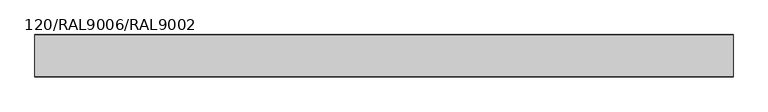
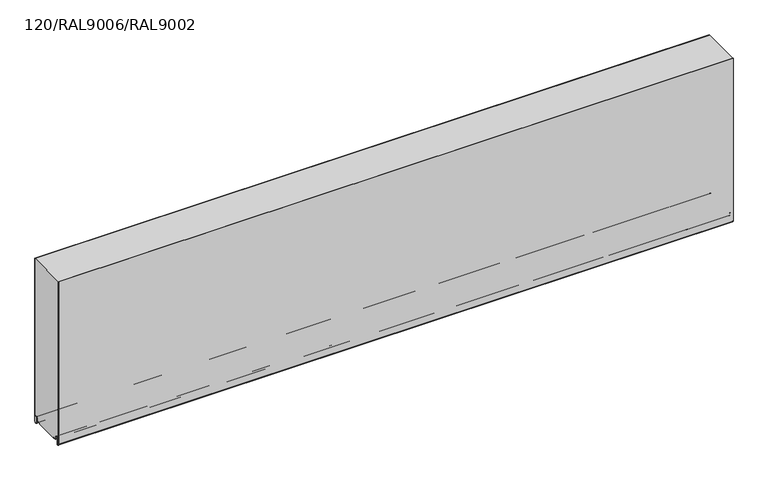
"""IFC4 building model written with IfcOpenShell, lengths in millimetres: plate geometry, TR_C_H_FTV_Panel_cut_GROOVE : 120/RAL9006/RAL9002."""

from ifc_helpers import new_model, si_unit, point, frame, frame_2d, origin, place, context, project, spatial, polyline, circle_curve, trimmed, segment, composite_curve, outline, extrude, source, transform, mapped, element, save


def plate_120_ral9006_ral9002_da1a0bd5(model_context):
    return source(origin(), model_context, "Body", "SweptSolid", [
        extrude(outline(composite_curve([segment(polyline([(-0.8, 14.4000012), (-9.45, 14.4000012)]), True, "CONTINUOUS"), segment(trimmed(circle_curve(frame_2d((-9.45, 10.1500012)), 4.25), [point((-9.45, 14.4000012))], [point((-13.635433, 10.8880059))], True, "CARTESIAN"), True, "CONTINUOUS"), segment(polyline([(-13.635433, 10.8880059), (-14.7022582, 4.837739)]), True, "CONTINUOUS"), segment(trimmed(circle_curve(frame_2d((-17.6074411, 5.3500012)), 2.95), [point((-14.7022582, 4.837739))], [point((-17.6074411, 2.4000012))], False, "CARTESIAN"), True, "CONTINUOUS"), segment(polyline([(-17.6074411, 2.4000012), (-23.7, 2.4000012), (-23.7, 1.2e-06), (-96.3, 1.2e-06), (-96.3, 2.4000012), (-102.3925589, 2.4000012)]), True, "CONTINUOUS"), segment(trimmed(circle_curve(frame_2d((-102.3925589, 5.3500012)), 2.95), [point((-102.3925589, 2.4000012))], [point((-105.2977418, 4.837739))], False, "CARTESIAN"), True, "CONTINUOUS"), segment(polyline([(-105.2977418, 4.837739), (-106.364567, 10.8880059)]), True, "CONTINUOUS"), segment(trimmed(circle_curve(frame_2d((-110.55, 10.1500012)), 4.25), [point((-106.364567, 10.8880059))], [point((-110.55, 14.4000012))], True, "CARTESIAN"), True, "CONTINUOUS"), segment(polyline([(-110.55, 14.4000012), (-119.2, 14.4000012), (-119.2, 500.0), (-0.8, 500.0), (-0.8, 14.4000012)]), True, "CONTINUOUS")], self_intersect=False)), frame((-990.0, 0.0, 0.0), z_axis=(1.0, 0.0, 0.0), x_axis=(0.0, 1.0, 0.0)), (0.0, 0.0, 1.0), 1980.0),
        extrude(outline(composite_curve([segment(polyline([(-21.0, 2.4000012), (-17.6074411, 2.4000012)]), True, "CONTINUOUS"), segment(trimmed(circle_curve(frame_2d((-17.6074411, 5.3500012)), 2.95), [point((-17.6074411, 2.4000012))], [point((-14.7022582, 4.837739))], True, "CARTESIAN"), True, "CONTINUOUS"), segment(polyline([(-14.7022582, 4.837739), (-13.635433, 10.8880059)]), True, "CONTINUOUS"), segment(trimmed(circle_curve(frame_2d((-9.45, 10.1500012)), 4.25), [point((-13.635433, 10.8880059))], [point((-5.2, 10.1500012))], False, "CARTESIAN"), True, "CONTINUOUS"), segment(polyline([(-5.2, 10.1500012), (-5.2, -7.4499988)]), True, "CONTINUOUS"), segment(trimmed(circle_curve(frame_2d((-4.05, -7.4499988)), 1.15), [point((-5.2, -7.4499988))], [point((-3.2368272, -8.2631716))], True, "CARTESIAN"), True, "CONTINUOUS"), segment(polyline([(-3.2368272, -8.2631716), (-1.3711418, -6.3974862)]), True, "CONTINUOUS"), segment(trimmed(circle_curve(frame_2d((-2.75, -5.018628)), 1.95), [point((-1.3711418, -6.3974862))], [point((-0.8, -5.018628))], True, "CARTESIAN"), True, "CONTINUOUS"), segment(polyline([(-0.8, -5.018628), (-0.8, 500.0), (0.0, 500.0), (0.0, -5.018628)]), True, "CONTINUOUS"), segment(trimmed(circle_curve(frame_2d((-2.75, -5.018628)), 2.75), [point((0.0, -5.018628))], [point((-0.8054564, -6.9631716))], False, "CARTESIAN"), True, "CONTINUOUS"), segment(polyline([(-0.8054564, -6.9631716), (-2.6711418, -8.8288571)]), True, "CONTINUOUS"), segment(trimmed(circle_curve(frame_2d((-4.05, -7.4499988)), 1.95), [point((-2.6711418, -8.8288571))], [point((-6.0, -7.4499988))], False, "CARTESIAN"), True, "CONTINUOUS"), segment(polyline([(-6.0, -7.4499988), (-6.0, 10.1500012)]), True, "CONTINUOUS"), segment(trimmed(circle_curve(frame_2d((-9.45, 10.1500012)), 3.45), [point((-6.0, 10.1500012))], [point((-12.8475867, 10.7490874))], True, "CARTESIAN"), True, "CONTINUOUS"), segment(polyline([(-12.8475867, 10.7490874), (-13.914412, 4.6988205)]), True, "CONTINUOUS"), segment(trimmed(circle_curve(frame_2d((-17.6074411, 5.3500012)), 3.75), [point((-13.914412, 4.6988205))], [point((-17.6074411, 1.6000012))], False, "CARTESIAN"), True, "CONTINUOUS"), segment(polyline([(-17.6074411, 1.6000012), (-21.0, 1.6000012), (-21.0, 2.4000012)]), True, "CONTINUOUS")], self_intersect=False)), frame((-990.0, 0.0, 0.0), z_axis=(1.0, 0.0, 0.0), x_axis=(0.0, 1.0, 0.0)), (0.0, 0.0, 1.0), 1980.0),
        extrude(outline(composite_curve([segment(trimmed(circle_curve(frame_2d((-117.25, -5.018628)), 1.95), [point((-119.2, -5.018628))], [point((-118.6288582, -6.3974862))], True, "CARTESIAN"), True, "CONTINUOUS"), segment(polyline([(-118.6288582, -6.3974862), (-116.7631728, -8.2631716)]), True, "CONTINUOUS"), segment(trimmed(circle_curve(frame_2d((-115.95, -7.4499988)), 1.15), [point((-116.7631728, -8.2631716))], [point((-114.8, -7.4499988))], True, "CARTESIAN"), True, "CONTINUOUS"), segment(polyline([(-114.8, -7.4499988), (-114.8, 10.1500012)]), True, "CONTINUOUS"), segment(trimmed(circle_curve(frame_2d((-110.55, 10.1500012)), 4.25), [point((-114.8, 10.1500012))], [point((-106.364567, 10.8880059))], False, "CARTESIAN"), True, "CONTINUOUS"), segment(polyline([(-106.364567, 10.8880059), (-105.2977418, 4.837739)]), True, "CONTINUOUS"), segment(trimmed(circle_curve(frame_2d((-102.3925589, 5.3500012)), 2.95), [point((-105.2977418, 4.837739))], [point((-102.3925589, 2.4000012))], True, "CARTESIAN"), True, "CONTINUOUS"), segment(polyline([(-102.3925589, 2.4000012), (-99.0, 2.4000012), (-99.0, 1.6000012), (-102.3925589, 1.6000012)]), True, "CONTINUOUS"), segment(trimmed(circle_curve(frame_2d((-102.3925589, 5.3500012)), 3.75), [point((-102.3925589, 1.6000012))], [point((-106.085588, 4.6988205))], False, "CARTESIAN"), True, "CONTINUOUS"), segment(polyline([(-106.085588, 4.6988205), (-107.1524133, 10.7490874)]), True, "CONTINUOUS"), segment(trimmed(circle_curve(frame_2d((-110.55, 10.1500012)), 3.45), [point((-107.1524133, 10.7490874))], [point((-114.0, 10.1500012))], True, "CARTESIAN"), True, "CONTINUOUS"), segment(polyline([(-114.0, 10.1500012), (-114.0, -7.4499988)]), True, "CONTINUOUS"), segment(trimmed(circle_curve(frame_2d((-115.95, -7.4499988)), 1.95), [point((-114.0, -7.4499988))], [point((-117.3288582, -8.8288571))], False, "CARTESIAN"), True, "CONTINUOUS"), segment(polyline([(-117.3288582, -8.8288571), (-119.1945436, -6.9631716)]), True, "CONTINUOUS"), segment(trimmed(circle_curve(frame_2d((-117.25, -5.018628)), 2.75), [point((-119.1945436, -6.9631716))], [point((-120.0, -5.018628))], False, "CARTESIAN"), True, "CONTINUOUS"), segment(polyline([(-120.0, -5.018628), (-120.0, 500.0), (-119.2, 500.0), (-119.2, -5.018628)]), True, "CONTINUOUS")], self_intersect=False)), frame((-990.0, 0.0, 0.0), z_axis=(1.0, 0.0, 0.0), x_axis=(0.0, 1.0, 0.0)), (0.0, 0.0, 1.0), 1980.0),
    ])


if __name__ == "__main__":
    model = new_model("IFC4")
    model_context = context("Model", 3, world=origin())
    ifc_project = project(units=[si_unit("LENGTHUNIT", "METRE", prefix="MILLI")], contexts=[model_context])
    site = spatial("IfcSite", under=ifc_project)
    building = spatial("IfcBuilding", under=site)
    placement = place(None, origin())
    plate_120_ral9006_ral9002_shape = plate_120_ral9006_ral9002_da1a0bd5(model_context)
    element("IfcPlate", 1, ObjectType="TR_C_H_FTV_Panel_cut_GROOVE : 120/RAL9006/RAL9002", at=placement, inside=building, context=model_context, shape_type="MappedRepresentation", body=[
        mapped(plate_120_ral9006_ral9002_shape, transform((0.0, 0.0, 0.0), x_axis=(1.0, 0.0, 0.0), y_axis=(0.0, 1.0, 0.0), z_axis=(0.0, 0.0, 1.0))),
    ])
    save(model, "model.ifc")
